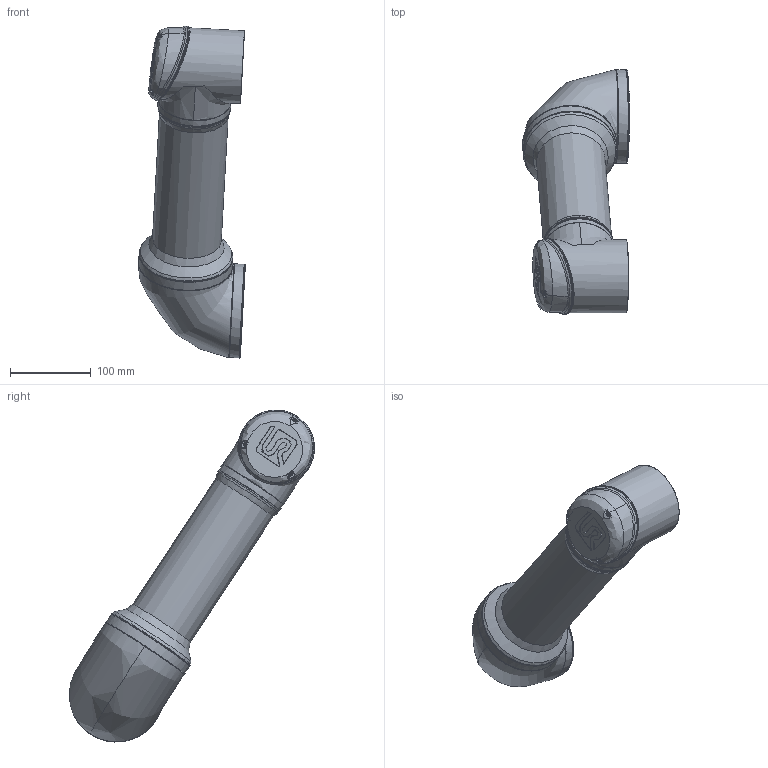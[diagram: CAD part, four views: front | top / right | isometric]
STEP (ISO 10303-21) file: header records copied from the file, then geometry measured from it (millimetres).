
FILE_DESCRIPTION(/* description */ ('STEP AP242 Edition 2','CAx-IF Rec.Pracs.---Representation and Presentation of Product Manufacturing Information (PMI)---4.0---2014-10-13','CAx-IF Rec.Pracs.---3D Tessellated Geometry---0.4---2014-09-14','2;1','CAx-IF Rec.Pracs.---User Defined Attributes---1.5---2016-08-15'),/* implementation_level */ '2;1');
FILE_NAME(/* name */ 'Assembly 1 - Link_3__Imported1',/* time_stamp */ '2026-08-25T13:00:46Z',/* author */ (''),/* organization */ (''),/* preprocessor_version */ 'ST-DEVELOPER v20',/* originating_system */ 'ONSHAPE BY PTC INC, 1.219',/* authorisation */ ' ');
FILE_SCHEMA (('AP242_MANAGED_MODEL_BASED_3D_ENGINEERING_MIM_LF { 1 0 10303 442 3 1 4 }'));
Length unit declared in the file: metre
Products named in the file (1): Link_3__Imported1
Bounding box: 131.87 x 302.79 x 409.96 mm (x, y, z)
Volume: 3424097.9 mm3; surface area: 163654.2 mm2
Topology: 1 solids, 1 shells, 317 faces, 868 edges, 563 vertices
Faces by surface type: bspline 101, cylinder 98, torus 54, cone 33, plane 23, sphere 8
Full cylindrical faces by diameter (mm): 5.6 x3, 85 x1, 88.195 x2, 90 x3, 116 x3
Entity records: 23029 total; most frequent: CARTESIAN_POINT 16194, ORIENTED_EDGE 1602, EDGE_CURVE 801, B_SPLINE_CURVE_WITH_KNOTS 682, DIRECTION 592, VERTEX_POINT 552, FACE_BOUND 375, EDGE_LOOP 372
